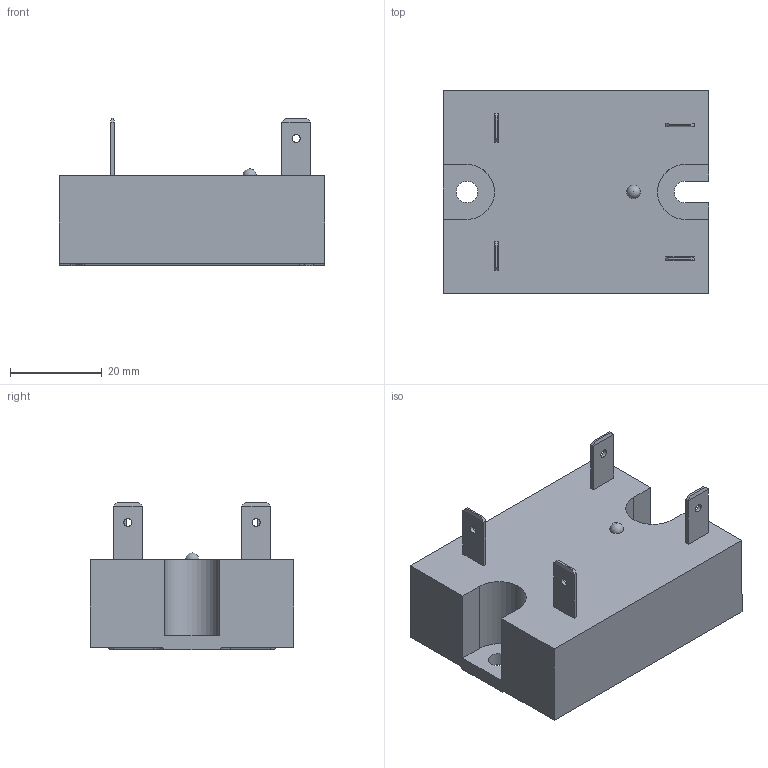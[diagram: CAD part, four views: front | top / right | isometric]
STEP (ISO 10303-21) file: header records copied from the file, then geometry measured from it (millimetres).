
FILE_DESCRIPTION((''),'2;1');
FILE_NAME('C:\Vault_local\Designs\Stock\3D pour clients\2D3D 586 A.stp','2011-04-11T11:45:44',('Georges THOLLOT ','Tl : +33 (0)4 77 53 90 27','gthollot@celduc.com'),('Celduc r e l a i s','5, rue Ampre, BP 30004','42290 SORBIERS - France','Fax. : +33 (0)4 77 53 85 51','N siret 353 310 519 00015','ISO 9001 N QUAL/1993/1106b','www.celduc.com'),'Autodesk Inventor 2010','Autodesk Inventor 2010','');
FILE_SCHEMA(('AUTOMOTIVE_DESIGN { 1 0 10303 214 1 1 1 1 }'));
Length unit declared in the file: millimetre
Products named in the file (1): SCF
Bounding box: 58 x 44.5 x 32.1 mm (x, y, z)
Volume: 46392.8 mm3; surface area: 10396.9 mm2
Topology: 1 solids, 1 shells, 80 faces, 206 edges, 132 vertices
Faces by surface type: plane 63, cylinder 8, cone 8, sphere 1
Full cylindrical faces by diameter (mm): 1.75 x4, 4.7 x1
Entity records: 2467 total; most frequent: CARTESIAN_POINT 411, ORIENTED_EDGE 398, DIRECTION 394, EDGE_CURVE 199, VECTOR 166, LINE 166, VERTEX_POINT 131, AXIS2_PLACEMENT_3D 114
